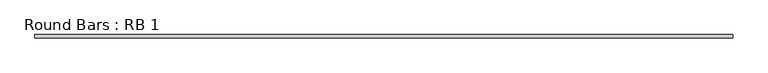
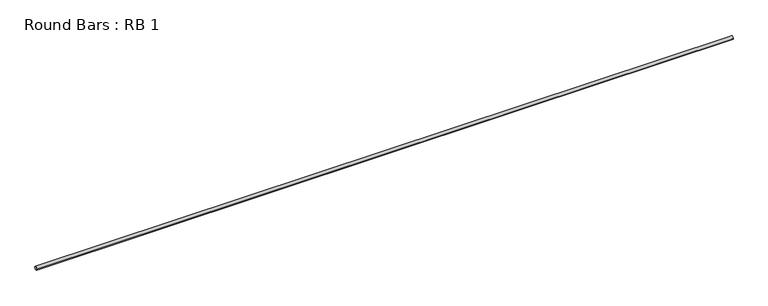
"""IFC4 building model written with IfcOpenShell, lengths in millimetres: beam geometry, Round Bars : RB 1."""

import ifcopenshell
import ifcopenshell.guid

model = None  # the IFC model being written
_history = None  # IfcOwnerHistory: only IFC2X3 demands one
_inside = {}  # id of a spatial element -> (the spatial element, [elements in it])
_under = {}  # id of a project, library or spatial element -> (it, [spatial elements below it])
_declared = {}  # id of a project -> (the project, [libraries it declares])
_typed = {}  # id of a type object -> (the type object, [elements of that type])
_made_of = {}  # id of a material, layer set ... -> (it, [elements and type objects made of it])


def new_model(schema):
    """Start an empty IFC model of exactly this schema.

    Asked for "IFC4X3", IfcOpenShell would pick the latest addendum, in which some entities
    have other attributes; the version numbers below select the first issue.
    IFC2X3 requires an IfcOwnerHistory on every rooted entity: one is made here for all.
    """
    global model, _history
    if schema == "IFC4X3":
        model = ifcopenshell.file(schema_version=(4, 3, 0, 0))
    else:
        model = ifcopenshell.file(schema=schema)
    _inside.clear()
    _under.clear()
    _declared.clear()
    _typed.clear()
    _made_of.clear()
    _history = None
    if model.schema == "IFC2X3":
        org = make("IfcOrganization", Name="unknown")
        user = make(
            "IfcPersonAndOrganization",
            ThePerson=make("IfcPerson", FamilyName="unknown"),
            TheOrganization=org,
        )
        app = make(
            "IfcApplication",
            ApplicationDeveloper=org,
            Version="unknown",
            ApplicationFullName="unknown",
            ApplicationIdentifier="unknown",
        )
        _history = make(
            "IfcOwnerHistory",
            OwningUser=user,
            OwningApplication=app,
            ChangeAction="ADDED",
            CreationDate=0,
        )
    return model


def make(cls, **values):
    """One entity of the class cls with the attributes given. An attribute that is None is left unset."""
    return model.create_entity(
        cls, **{name: value for name, value in values.items() if value is not None}
    )


def rooted(cls, **values):
    """An entity with a GlobalId (a new one), such as an element, a storey or a relation."""
    return make(cls, GlobalId=ifcopenshell.guid.new(), OwnerHistory=_history, **values)


def si_unit(unit_type, name, prefix=None):
    """IfcSIUnit, for example si_unit("LENGTHUNIT", "METRE", prefix="MILLI")."""
    return make("IfcSIUnit", UnitType=unit_type, Prefix=prefix, Name=name)


def assignment(units):
    """IfcUnitAssignment: the units of a project."""
    return None if units is None else make("IfcUnitAssignment", Units=units)


def point(xyz):
    """IfcCartesianPoint."""
    return None if xyz is None else make("IfcCartesianPoint", Coordinates=xyz)


def direction(xyz):
    """IfcDirection."""
    return None if xyz is None else make("IfcDirection", DirectionRatios=xyz)


def frame(location, z_axis=None, x_axis=None):
    """IfcAxis2Placement3D, a coordinate frame: its origin and axes. An axis left out is left unset."""
    return make(
        "IfcAxis2Placement3D",
        Location=point(location),
        Axis=direction(z_axis),
        RefDirection=direction(x_axis),
    )


def frame_2d(location, x_axis=None):
    """IfcAxis2Placement2D, a coordinate frame in the plane: its origin and x axis."""
    return make(
        "IfcAxis2Placement2D", Location=point(location), RefDirection=direction(x_axis)
    )


def origin():
    """The frame at (0, 0, 0) with its axes left unset."""
    return frame((0.0, 0.0, 0.0))


def origin_2d():
    """The frame at (0, 0) in the plane with its x axis left unset."""
    return frame_2d((0.0, 0.0))


def place(relative_to, where):
    """IfcLocalPlacement: puts the frame where relative to a parent placement (None: the world)."""
    return make(
        "IfcLocalPlacement", PlacementRelTo=relative_to, RelativePlacement=where
    )


def context(
    kind, dimensions, precision=None, world=None, true_north=None, identifier=None
):
    """IfcGeometricRepresentationContext, for example the 3D "Model" context."""
    return make(
        "IfcGeometricRepresentationContext",
        ContextIdentifier=identifier,
        ContextType=kind,
        CoordinateSpaceDimension=dimensions,
        Precision=precision,
        WorldCoordinateSystem=world,
        TrueNorth=true_north,
    )


def project(units=None, contexts=None):
    """IfcProject with its units and contexts."""
    return rooted(
        "IfcProject",
        Name="project",
        RepresentationContexts=contexts,
        UnitsInContext=assignment(units),
    )


def spatial(cls, under=None, at=None, **own):
    """A site, building, storey or space (cls), placed at a placement, below another one or the project."""
    s = rooted(cls, ObjectPlacement=at, **own)
    if under is not None:
        _under.setdefault(under.id(), (under, []))[1].append(s)
    return s


def circle_curve(where, radius):
    """IfcCircle in the frame where."""
    return make("IfcCircle", Position=where, Radius=radius)


def trimmed(basis, trim1, trim2, sense, master):
    """IfcTrimmedCurve: the piece of a basis curve between two trims."""
    return make(
        "IfcTrimmedCurve",
        BasisCurve=basis,
        Trim1=trim1,
        Trim2=trim2,
        SenseAgreement=sense,
        MasterRepresentation=master,
    )


def segment(curve, same_sense, transition):
    """IfcCompositeCurveSegment."""
    return make(
        "IfcCompositeCurveSegment",
        Transition=transition,
        SameSense=same_sense,
        ParentCurve=curve,
    )


def composite_curve(segments, self_intersect=None):
    """IfcCompositeCurve: segments joined end to end."""
    return make("IfcCompositeCurve", Segments=segments, SelfIntersect=self_intersect)


def outline(outer, holes=None, kind="AREA"):
    """IfcArbitraryClosedProfileDef: a profile drawn as a closed curve; with holes, ...WithVoids."""
    if holes is None:
        return make("IfcArbitraryClosedProfileDef", ProfileType=kind, OuterCurve=outer)
    return make(
        "IfcArbitraryProfileDefWithVoids",
        ProfileType=kind,
        OuterCurve=outer,
        InnerCurves=holes,
    )


def extrude(swept, where, along, depth):
    """IfcExtrudedAreaSolid: the profile swept, set in the frame where, extruded along a direction by depth."""
    return make(
        "IfcExtrudedAreaSolid",
        SweptArea=swept,
        Position=where,
        ExtrudedDirection=direction(along),
        Depth=depth,
    )


def shape(context_of_items, identifier, shape_type, items):
    """IfcShapeRepresentation: the items that make up one representation, for example the "Body"."""
    return make(
        "IfcShapeRepresentation",
        ContextOfItems=context_of_items,
        RepresentationIdentifier=identifier,
        RepresentationType=shape_type,
        Items=items,
    )


def source(mapping_origin, context_of_items, identifier, shape_type, items):
    """IfcRepresentationMap: a shape defined once, which mapped items show again and again."""
    return make(
        "IfcRepresentationMap",
        MappingOrigin=mapping_origin,
        MappedRepresentation=shape(context_of_items, identifier, shape_type, items),
    )


def transform(
    local_origin,
    x_axis=None,
    y_axis=None,
    z_axis=None,
    scale=None,
    scale2=None,
    scale3=None,
    uniform=True,
):
    """IfcCartesianTransformationOperator3D, or its non-uniform kind. x_axis, y_axis, z_axis: its Axis1, 2, 3."""
    if uniform:
        return make(
            "IfcCartesianTransformationOperator3D",
            Axis1=direction(x_axis),
            Axis2=direction(y_axis),
            LocalOrigin=point(local_origin),
            Scale=scale,
            Axis3=direction(z_axis),
        )
    return make(
        "IfcCartesianTransformationOperator3DnonUniform",
        Axis1=direction(x_axis),
        Axis2=direction(y_axis),
        LocalOrigin=point(local_origin),
        Scale=scale,
        Axis3=direction(z_axis),
        Scale2=scale2,
        Scale3=scale3,
    )


def mapped(mapping_source, mapping_target):
    """IfcMappedItem: shows the shape of a source again, moved by a transform."""
    return make(
        "IfcMappedItem", MappingSource=mapping_source, MappingTarget=mapping_target
    )


def made_of(thing, what):
    """Note that an element or type object is made of a material, layer set ...; save() writes the relation."""
    if what is not None:
        _made_of.setdefault(what.id(), (what, []))[1].append(thing)
    return thing


def element(
    cls,
    number,
    at=None,
    inside=None,
    cuts=None,
    type_object=None,
    material=None,
    context=None,
    identifier="Body",
    shape_type=None,
    held_by="IfcProductDefinitionShape",
    body=None,
    shapes=None,
    **own,
):
    """One element of the class cls, such as IfcWall. Its Tag is "e" and its number.

    at: its placement. inside: the storey or other place that contains it. cuts: it is an
    opening in that element (IfcRelVoidsElement). A single representation is given by context,
    identifier, shape_type and body (its items); several are given by shapes. held_by: the class
    of the entity that holds the representations. save() writes the other relations.
    """
    e = rooted(cls, Tag="e%d" % number, ObjectPlacement=at, **own)
    if body is not None:
        shapes = [shape(context, identifier, shape_type, body)]
    if shapes is not None:
        e.Representation = make(held_by, Representations=shapes)
    if inside is not None:
        _inside.setdefault(inside.id(), (inside, []))[1].append(e)
    if cuts is not None:
        rooted(
            "IfcRelVoidsElement", RelatingBuildingElement=cuts, RelatedOpeningElement=e
        )
    if type_object is not None:
        _typed.setdefault(type_object.id(), (type_object, []))[1].append(e)
    return made_of(e, material)


def aggregate(whole, parts):
    """IfcRelAggregates: a whole, such as a stair, and the parts it consists of."""
    return rooted("IfcRelAggregates", RelatingObject=whole, RelatedObjects=parts)


def save(model, path):
    """Write the relations noted so far, then the file.

    IfcRelAggregates (storeys below a building ...), IfcRelContainedInSpatialStructure (elements
    in a storey), IfcRelDefinesByType, IfcRelAssociatesMaterial and IfcRelDeclares: one each for
    every whole, place, type object, material and project.
    """
    for whole, parts in _under.values():
        aggregate(whole, parts)
    for where, things in _inside.values():
        rooted(
            "IfcRelContainedInSpatialStructure",
            RelatedElements=things,
            RelatingStructure=where,
        )
    for kind, things in _typed.values():
        rooted("IfcRelDefinesByType", RelatedObjects=things, RelatingType=kind)
    for what, things in _made_of.values():
        rooted("IfcRelAssociatesMaterial", RelatedObjects=things, RelatingMaterial=what)
    for by, libraries in _declared.values():
        rooted("IfcRelDeclares", RelatingContext=by, RelatedDefinitions=libraries)
    model.write(path)


def round_bars_rb_1_459af232(model_context):
    return source(origin(), model_context, "Body", "SweptSolid", [
        extrude(outline(composite_curve([segment(trimmed(circle_curve(origin_2d(), 12.7), [point((12.7, 0.0))], [point((-12.7, 0.0))], False, "CARTESIAN"), True, "CONTINUOUS"), segment(trimmed(circle_curve(origin_2d(), 12.7), [point((-12.7, 0.0))], [point((12.7, 0.0))], False, "CARTESIAN"), True, "CONTINUOUS")], self_intersect=False)), frame((-2520.5487763, 0.0, 0.0), z_axis=(1.0, 0.0, 0.0), x_axis=(0.0, 1.0, 0.0)), (0.0, 0.0, 1.0), 5041.0975526),
    ])


if __name__ == "__main__":
    model = new_model("IFC4")
    model_context = context("Model", 3, world=origin())
    ifc_project = project(units=[si_unit("LENGTHUNIT", "METRE", prefix="MILLI")], contexts=[model_context])
    site = spatial("IfcSite", under=ifc_project)
    building = spatial("IfcBuilding", under=site)
    placement = place(None, origin())
    round_bars_rb_1_shape = round_bars_rb_1_459af232(model_context)
    element("IfcBeam", 1, ObjectType="Round Bars : RB 1", at=placement, inside=building, context=model_context, shape_type="MappedRepresentation", body=[
        mapped(round_bars_rb_1_shape, transform((0.0, 0.0, 0.0), x_axis=(1.0, 0.0, 0.0), y_axis=(0.0, 1.0, 0.0), z_axis=(0.0, 0.0, 1.0))),
    ])
    save(model, "model.ifc")
